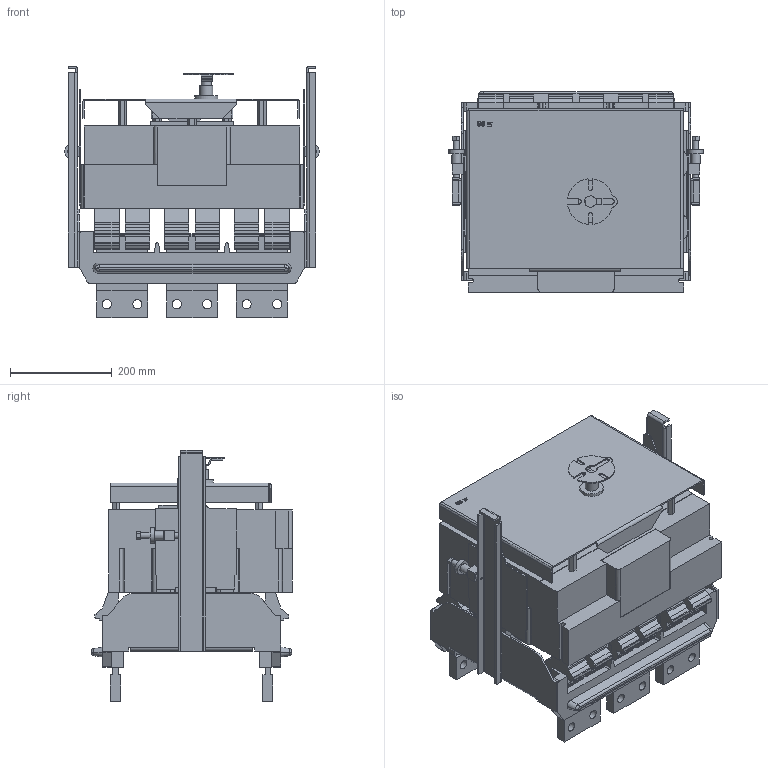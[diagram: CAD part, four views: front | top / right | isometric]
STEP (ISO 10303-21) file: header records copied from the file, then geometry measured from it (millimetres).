
FILE_DESCRIPTION (( 'STEP AP214' ), '1' );
FILE_NAME ('ÂÀ 53(55)-43 âûäâèæíîå èñïîëíåíèå ñ ìåõàíè÷åñêèì ïðèâîäîì 1600À.STEP', '2023-02-09T10:28:46', ( '' ), ( '' ), 'SwSTEP 2.0', 'SolidWorks 2018', '' );
FILE_SCHEMA (( 'AUTOMOTIVE_DESIGN' ));
Length unit declared in the file: millimetre
Products named in the file (1): ÂÀ 53(55)-43 âûäâèæíîå èñïîëíåíèå ñ ìåõàíè÷åñêèì ïðèâîäîì 1600À
Bounding box: 501 x 395.2 x 494.3 mm (x, y, z)
Volume: 31010199.6 mm3; surface area: 2085753.3 mm2
Topology: 2 solids, 2 shells, 1246 faces, 3786 edges, 2523 vertices
Faces by surface type: plane 889, cylinder 345, bspline 10, cone 2
Full cylindrical faces by diameter (mm): 12 x6, 12.2 x2, 13.2 x4, 18 x14, 20 x1, 25.7 x1, 30 x2, 45.6 x1
Entity records: 42895 total; most frequent: CARTESIAN_POINT 8383, ORIENTED_EDGE 7472, DIRECTION 6871, EDGE_CURVE 3736, VECTOR 2933, LINE 2933, VERTEX_POINT 2506, AXIS2_PLACEMENT_3D 1969
